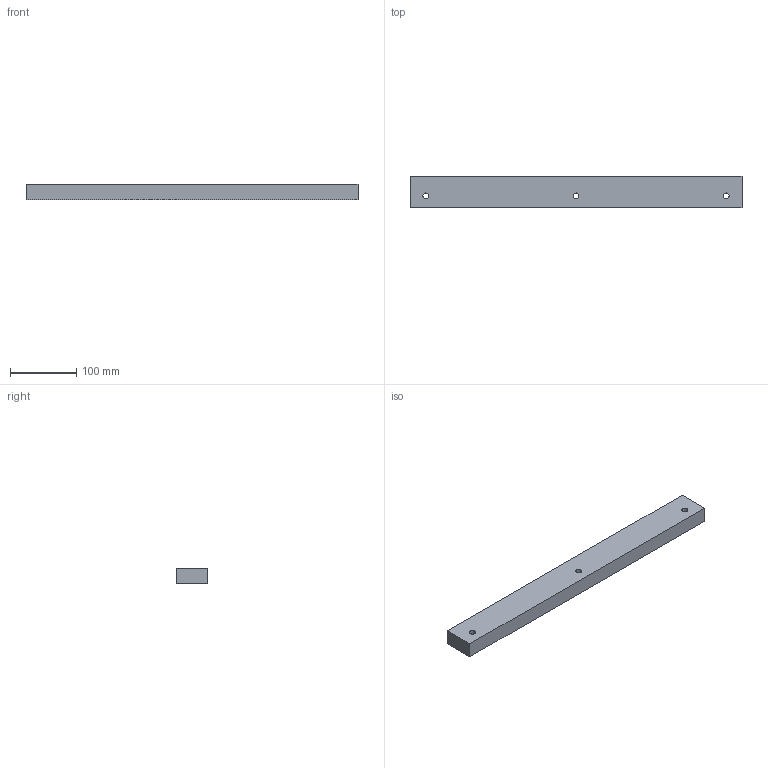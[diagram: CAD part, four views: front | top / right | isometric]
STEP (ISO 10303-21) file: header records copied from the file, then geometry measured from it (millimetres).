
FILE_DESCRIPTION (( 'STEP AP203' ), '1' );
FILE_NAME ('Tasseau_500_Parois.STEP', '2026-06-24T07:29:48', ( '' ), ( '' ), 'SwSTEP 2.0', 'SolidWorks 2024', '' );
FILE_SCHEMA (( 'CONFIG_CONTROL_DESIGN' ));
Length unit declared in the file: millimetre
Products named in the file (1): Tasseau_500_Parois
Bounding box: 500 x 48 x 24 mm (x, y, z)
Volume: 571419.6 mm3; surface area: 75958 mm2
Topology: 1 solids, 1 shells, 9 faces, 21 edges, 14 vertices
Faces by surface type: plane 6, cylinder 3
Full cylindrical faces by diameter (mm): 9 x3
Entity records: 333 total; most frequent: DIRECTION 44, CARTESIAN_POINT 42, ORIENTED_EDGE 36, EDGE_LOOP 18, EDGE_CURVE 18, AXIS2_PLACEMENT_3D 16, VERTEX_POINT 14, LINE 12
